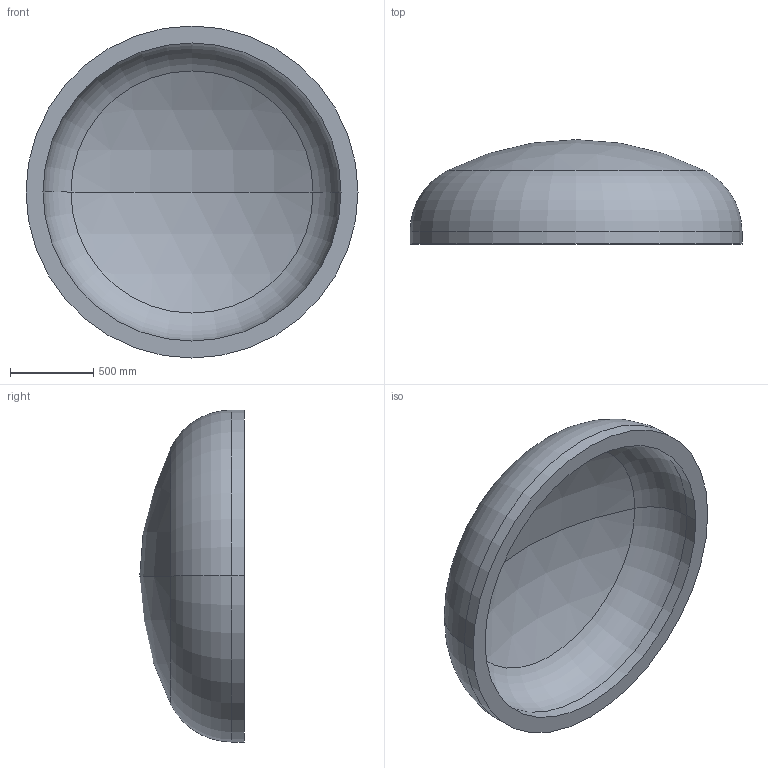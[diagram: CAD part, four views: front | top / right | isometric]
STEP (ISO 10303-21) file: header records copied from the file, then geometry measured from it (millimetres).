
FILE_DESCRIPTION (( 'STEP AP203' ), '1' );
FILE_NAME ('DIN 28013 Korbbogenform_-_Boden DIN 28013 - 2000 x 75 - I - s=102.step', '2016-07-01T14:09:58', ( '' ), ( '' ), 'SwSTEP 2.0', 'SolidWorks 2013', '' );
FILE_SCHEMA (( 'CONFIG_CONTROL_DESIGN' ));
Length unit declared in the file: millimetre
Products named in the file (1): DIN 28013 Korbbogenform_-_Boden DIN 28013 - 2000 x 75 - I - s=102
Bounding box: 2000 x 628.8 x 2000 mm (x, y, z)
Volume: 461845329.4 mm3; surface area: 9685778.1 mm2
Topology: 1 solids, 1 shells, 13 faces, 24 edges, 14 vertices
Faces by surface type: torus 4, cylinder 4, sphere 4, plane 1
Entity records: 407 total; most frequent: DIRECTION 72, CARTESIAN_POINT 52, ORIENTED_EDGE 48, AXIS2_PLACEMENT_3D 34, EDGE_CURVE 24, CIRCLE 20, EDGE_LOOP 14, VERTEX_POINT 14
